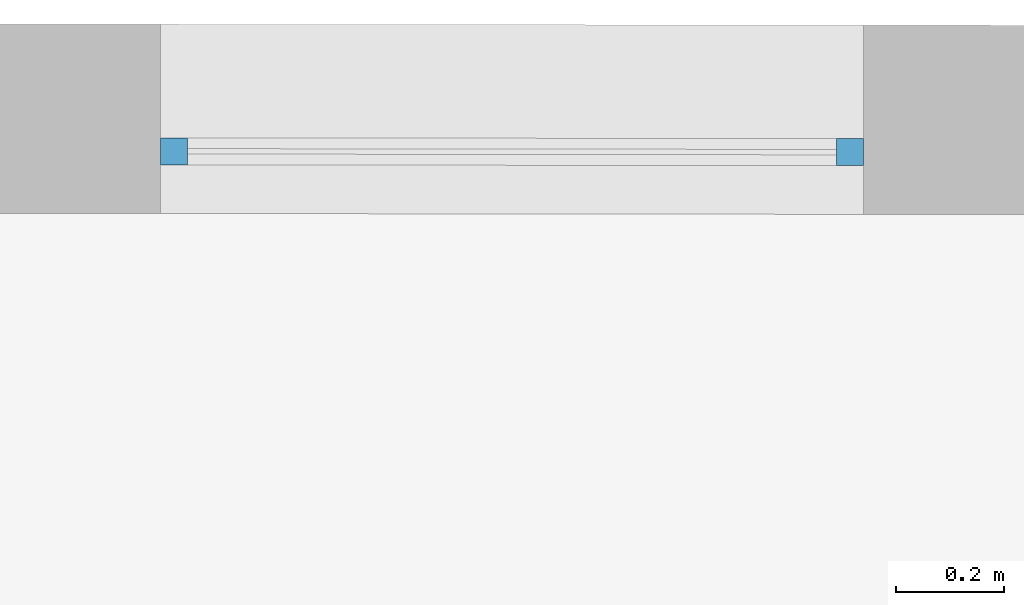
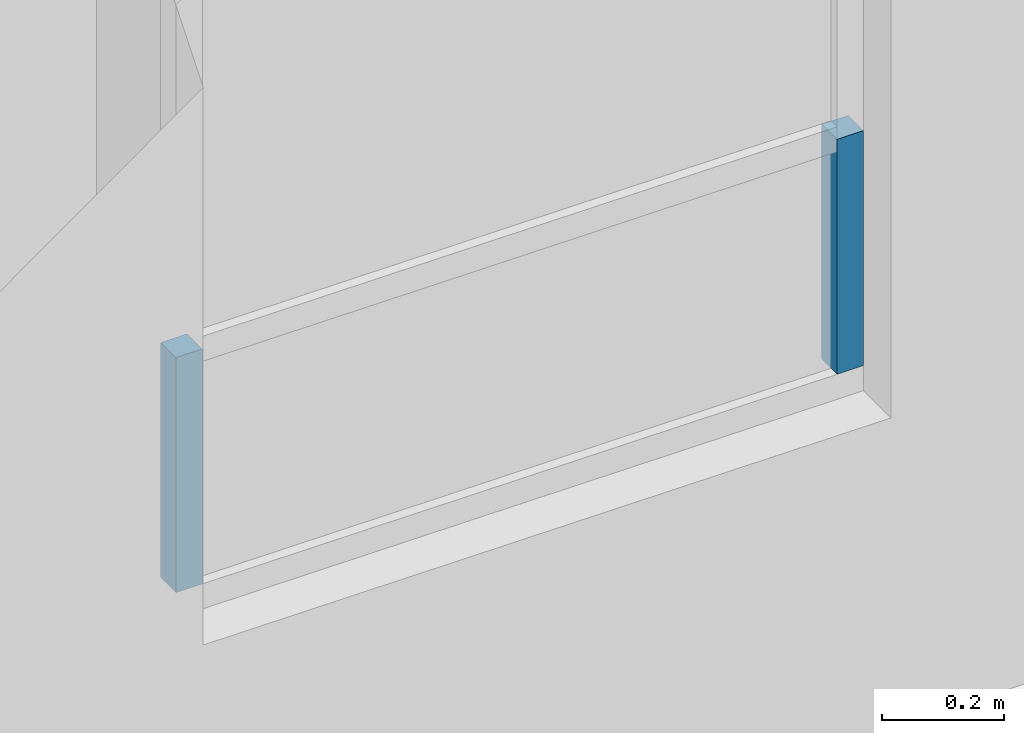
# One storey, part 24 of 35: 2 members, 1 element without a shape of its own.
"""IFC2X3 building model written with IfcOpenShell, lengths in metres."""

import ifcopenshell
import ifcopenshell.guid

model = None  # the IFC model being written
_history = None  # IfcOwnerHistory: only IFC2X3 demands one
_inside = {}  # id of a spatial element -> (the spatial element, [elements in it])
_under = {}  # id of a project, library or spatial element -> (it, [spatial elements below it])
_declared = {}  # id of a project -> (the project, [libraries it declares])
_typed = {}  # id of a type object -> (the type object, [elements of that type])
_made_of = {}  # id of a material, layer set ... -> (it, [elements and type objects made of it])


def new_model(schema):
    """Start an empty IFC model of exactly this schema.

    Asked for "IFC4X3", IfcOpenShell would pick the latest addendum, in which some entities
    have other attributes; the version numbers below select the first issue.
    IFC2X3 requires an IfcOwnerHistory on every rooted entity: one is made here for all.
    """
    global model, _history
    if schema == "IFC4X3":
        model = ifcopenshell.file(schema_version=(4, 3, 0, 0))
    else:
        model = ifcopenshell.file(schema=schema)
    _inside.clear()
    _under.clear()
    _declared.clear()
    _typed.clear()
    _made_of.clear()
    _history = None
    if model.schema == "IFC2X3":
        org = make("IfcOrganization", Name="unknown")
        user = make(
            "IfcPersonAndOrganization",
            ThePerson=make("IfcPerson", FamilyName="unknown"),
            TheOrganization=org,
        )
        app = make(
            "IfcApplication",
            ApplicationDeveloper=org,
            Version="unknown",
            ApplicationFullName="unknown",
            ApplicationIdentifier="unknown",
        )
        _history = make(
            "IfcOwnerHistory",
            OwningUser=user,
            OwningApplication=app,
            ChangeAction="ADDED",
            CreationDate=0,
        )
    return model


def make(cls, **values):
    """One entity of the class cls with the attributes given. An attribute that is None is left unset."""
    return model.create_entity(
        cls, **{name: value for name, value in values.items() if value is not None}
    )


def entity(cls, *values):
    """Any entity or typed value of the class cls, its attributes in the order of the schema. None: left unset."""
    e = model.create_entity(cls)
    for i, value in enumerate(values):
        if value is not None:
            e[i] = value
    return e


def rooted(cls, **values):
    """An entity with a GlobalId (a new one), such as an element, a storey or a relation."""
    return make(cls, GlobalId=ifcopenshell.guid.new(), OwnerHistory=_history, **values)


def si_unit(unit_type, name, prefix=None):
    """IfcSIUnit, for example si_unit("LENGTHUNIT", "METRE", prefix="MILLI")."""
    return make("IfcSIUnit", UnitType=unit_type, Prefix=prefix, Name=name)


def converted_unit(unit_type, name, factor, base, dimensions=None, offset=None):
    """IfcConversionBasedUnit, such as the inch: factor (a typed value) times the base unit."""
    return make(
        "IfcConversionBasedUnit"
        if offset is None
        else "IfcConversionBasedUnitWithOffset",
        ConversionOffset=offset,
        Dimensions=None
        if dimensions is None
        else entity("IfcDimensionalExponents", *dimensions),
        UnitType=unit_type,
        Name=name,
        ConversionFactor=make(
            "IfcMeasureWithUnit", ValueComponent=factor, UnitComponent=base
        ),
    )


def derived_unit(unit_type, elements):
    """IfcDerivedUnit: a product of units, each with its exponent."""
    return make(
        "IfcDerivedUnit",
        Elements=[
            make("IfcDerivedUnitElement", Unit=unit, Exponent=power)
            for unit, power in elements
        ],
        UnitType=unit_type,
    )


def assignment(units):
    """IfcUnitAssignment: the units of a project."""
    return None if units is None else make("IfcUnitAssignment", Units=units)


def point(xyz):
    """IfcCartesianPoint."""
    return None if xyz is None else make("IfcCartesianPoint", Coordinates=xyz)


def direction(xyz):
    """IfcDirection."""
    return None if xyz is None else make("IfcDirection", DirectionRatios=xyz)


def frame(location, z_axis=None, x_axis=None):
    """IfcAxis2Placement3D, a coordinate frame: its origin and axes. An axis left out is left unset."""
    return make(
        "IfcAxis2Placement3D",
        Location=point(location),
        Axis=direction(z_axis),
        RefDirection=direction(x_axis),
    )


def frame_2d(location, x_axis=None):
    """IfcAxis2Placement2D, a coordinate frame in the plane: its origin and x axis."""
    return make(
        "IfcAxis2Placement2D", Location=point(location), RefDirection=direction(x_axis)
    )


def origin():
    """The frame at (0, 0, 0) with its axes left unset."""
    return frame((0.0, 0.0, 0.0))


def origin_2d_with_axis():
    """The frame at (0, 0) in the plane with the x axis (1, 0) written out."""
    return frame_2d((0.0, 0.0), x_axis=(1.0, 0.0))


def place(relative_to, where):
    """IfcLocalPlacement: puts the frame where relative to a parent placement (None: the world)."""
    return make(
        "IfcLocalPlacement", PlacementRelTo=relative_to, RelativePlacement=where
    )


def context(
    kind, dimensions, precision=None, world=None, true_north=None, identifier=None
):
    """IfcGeometricRepresentationContext, for example the 3D "Model" context."""
    return make(
        "IfcGeometricRepresentationContext",
        ContextIdentifier=identifier,
        ContextType=kind,
        CoordinateSpaceDimension=dimensions,
        Precision=precision,
        WorldCoordinateSystem=world,
        TrueNorth=true_north,
    )


def subcontext(parent, identifier, kind, view, scale=None):
    """IfcGeometricRepresentationSubContext, for example "Body" below "Model"."""
    return make(
        "IfcGeometricRepresentationSubContext",
        ContextIdentifier=identifier,
        ContextType=kind,
        ParentContext=parent,
        TargetScale=scale,
        TargetView=view,
    )


def project(units=None, contexts=None):
    """IfcProject with its units and contexts."""
    return rooted(
        "IfcProject",
        Name="project",
        RepresentationContexts=contexts,
        UnitsInContext=assignment(units),
    )


def spatial(cls, under=None, at=None, **own):
    """A site, building, storey or space (cls), placed at a placement, below another one or the project."""
    s = rooted(cls, ObjectPlacement=at, **own)
    if under is not None:
        _under.setdefault(under.id(), (under, []))[1].append(s)
    return s


def profile(cls, at=None, kind="AREA", **sizes):
    """A parametric profile (cls). Its sizes go by their IFC names, for example OverallWidth=200.0."""
    return make(cls, ProfileType=kind, Position=at, **sizes)


def rectangle(**sizes):
    """IfcRectangleProfileDef."""
    return profile("IfcRectangleProfileDef", **sizes)


def extrude(swept, where, along, depth):
    """IfcExtrudedAreaSolid: the profile swept, set in the frame where, extruded along a direction by depth."""
    return make(
        "IfcExtrudedAreaSolid",
        SweptArea=swept,
        Position=where,
        ExtrudedDirection=direction(along),
        Depth=depth,
    )


def shape(context_of_items, identifier, shape_type, items):
    """IfcShapeRepresentation: the items that make up one representation, for example the "Body"."""
    return make(
        "IfcShapeRepresentation",
        ContextOfItems=context_of_items,
        RepresentationIdentifier=identifier,
        RepresentationType=shape_type,
        Items=items,
    )


def source(mapping_origin, context_of_items, identifier, shape_type, items):
    """IfcRepresentationMap: a shape defined once, which mapped items show again and again."""
    return make(
        "IfcRepresentationMap",
        MappingOrigin=mapping_origin,
        MappedRepresentation=shape(context_of_items, identifier, shape_type, items),
    )


def transform(
    local_origin,
    x_axis=None,
    y_axis=None,
    z_axis=None,
    scale=None,
    scale2=None,
    scale3=None,
    uniform=True,
):
    """IfcCartesianTransformationOperator3D, or its non-uniform kind. x_axis, y_axis, z_axis: its Axis1, 2, 3."""
    if uniform:
        return make(
            "IfcCartesianTransformationOperator3D",
            Axis1=direction(x_axis),
            Axis2=direction(y_axis),
            LocalOrigin=point(local_origin),
            Scale=scale,
            Axis3=direction(z_axis),
        )
    return make(
        "IfcCartesianTransformationOperator3DnonUniform",
        Axis1=direction(x_axis),
        Axis2=direction(y_axis),
        LocalOrigin=point(local_origin),
        Scale=scale,
        Axis3=direction(z_axis),
        Scale2=scale2,
        Scale3=scale3,
    )


def mapped(mapping_source, mapping_target):
    """IfcMappedItem: shows the shape of a source again, moved by a transform."""
    return make(
        "IfcMappedItem", MappingSource=mapping_source, MappingTarget=mapping_target
    )


def material(Name=None, Category=None):
    """IfcMaterial."""
    return make("IfcMaterial", Name=Name, Category=Category)


def made_of(thing, what):
    """Note that an element or type object is made of a material, layer set ...; save() writes the relation."""
    if what is not None:
        _made_of.setdefault(what.id(), (what, []))[1].append(thing)
    return thing


def type_object(cls, material=None, **own):
    """A type object (cls), such as IfcWallType, which elements share."""
    return made_of(rooted(cls, **own), material)


def type_shapes(of_type, sources):
    """Give a type object the sources (RepresentationMaps) that its elements show as mapped items."""
    of_type.RepresentationMaps = sources


def element(
    cls,
    number,
    at=None,
    inside=None,
    cuts=None,
    type_object=None,
    material=None,
    context=None,
    identifier="Body",
    shape_type=None,
    held_by="IfcProductDefinitionShape",
    body=None,
    shapes=None,
    **own,
):
    """One element of the class cls, such as IfcWall. Its Tag is "e" and its number.

    at: its placement. inside: the storey or other place that contains it. cuts: it is an
    opening in that element (IfcRelVoidsElement). A single representation is given by context,
    identifier, shape_type and body (its items); several are given by shapes. held_by: the class
    of the entity that holds the representations. save() writes the other relations.
    """
    e = rooted(cls, Tag="e%d" % number, ObjectPlacement=at, **own)
    if body is not None:
        shapes = [shape(context, identifier, shape_type, body)]
    if shapes is not None:
        e.Representation = make(held_by, Representations=shapes)
    if inside is not None:
        _inside.setdefault(inside.id(), (inside, []))[1].append(e)
    if cuts is not None:
        rooted(
            "IfcRelVoidsElement", RelatingBuildingElement=cuts, RelatedOpeningElement=e
        )
    if type_object is not None:
        _typed.setdefault(type_object.id(), (type_object, []))[1].append(e)
    return made_of(e, material)


def aggregate(whole, parts):
    """IfcRelAggregates: a whole, such as a stair, and the parts it consists of."""
    return rooted("IfcRelAggregates", RelatingObject=whole, RelatedObjects=parts)


def save(model, path):
    """Write the relations noted so far, then the file.

    IfcRelAggregates (storeys below a building ...), IfcRelContainedInSpatialStructure (elements
    in a storey), IfcRelDefinesByType, IfcRelAssociatesMaterial and IfcRelDeclares: one each for
    every whole, place, type object, material and project.
    """
    for whole, parts in _under.values():
        aggregate(whole, parts)
    for where, things in _inside.values():
        rooted(
            "IfcRelContainedInSpatialStructure",
            RelatedElements=things,
            RelatingStructure=where,
        )
    for kind, things in _typed.values():
        rooted("IfcRelDefinesByType", RelatedObjects=things, RelatingType=kind)
    for what, things in _made_of.values():
        rooted("IfcRelAssociatesMaterial", RelatedObjects=things, RelatingMaterial=what)
    for by, libraries in _declared.values():
        rooted("IfcRelDeclares", RelatingContext=by, RelatedDefinitions=libraries)
    model.write(path)


model = new_model("IFC2X3")

# Units and contexts
model_context = context("Model", 3, precision=1e-05, world=origin(), true_north=direction((6.123233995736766e-17, 1.0)))
body_context = subcontext(model_context, "Body", "Model", "MODEL_VIEW")
ifc_project = project(units=[si_unit("LENGTHUNIT", "METRE"), si_unit("AREAUNIT", "SQUARE_METRE"), converted_unit("PLANEANGLEUNIT", "DEGREE", entity("IfcPlaneAngleMeasure", 0.017453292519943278), si_unit("PLANEANGLEUNIT", "RADIAN"), dimensions=[0, 0, 0, 0, 0, 0, 0]), derived_unit("THERMALTRANSMITTANCEUNIT", [(si_unit("MASSUNIT", "GRAM", prefix="KILO"), 1), (si_unit("THERMODYNAMICTEMPERATUREUNIT", "KELVIN"), -1), (si_unit("TIMEUNIT", "SECOND"), -3)])], contexts=[model_context])

# Site, building, storey
site_placement = place(None, frame((1253.6752467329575, 2072.143113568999, 91.49999999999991), z_axis=(0.0, 0.0, 1.0), x_axis=(0.7237211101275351, 0.6900925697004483, 0.0)))
site = spatial("IfcSite", under=ifc_project, at=site_placement, Name="Surface", CompositionType="ELEMENT")
building_placement = place(site_placement, origin())
building = spatial("IfcBuilding", under=site, at=building_placement, CompositionType="ELEMENT")
storey_placement = place(building_placement, frame((0.0, 0.0, 3.549999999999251)))
storey = spatial("IfcBuildingStorey", under=building, at=storey_placement, Name="1-R+1", CompositionType="ELEMENT", Elevation=3.549999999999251)

# Curtain wall, members
curtain_wall_type = type_object("IfcCurtainWallType", Name="Mur-rideau:Menuiserie Ext 1F+1OB VERTIC", PredefinedType="NOTDEFINED")
curtain_wall_placement = place(storey_placement, frame((0.0, 0.0, -3.549999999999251)))
curtain_wall = element("IfcCurtainWall", 1, at=curtain_wall_placement, inside=storey, type_object=curtain_wall_type, Name="Mur-rideau:Menuiserie Ext 1F+1OB VERTIC", ObjectType="Mur-rideau:Menuiserie Ext 1F+1OB VERTIC")
ifc_material = material(Name="OMD_Aluminium Men Ext")
member_type_1 = type_object("IfcMemberType", Name="Meneau rectangulaire:50x50", PredefinedType="MULLION", material=ifc_material)
shared_shape_1 = source(origin(), body_context, "Body", "SweptSolid", [
    extrude(rectangle(XDim=0.05, YDim=0.049999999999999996, at=origin_2d_with_axis()), frame((-0.025, 0.0, -0.4699999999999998), z_axis=(0.0, 0.0, 1.0), x_axis=(-1.0, 0.0, 0.0)), (0.0, 0.0, 1.0), 0.4699999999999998),
])
type_shapes(member_type_1, [shared_shape_1])
member_1_placement = place(curtain_wall_placement, frame((170.62095614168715, 23.195735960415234, 4.219999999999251), z_axis=(0.0, 0.0, -1.0), x_axis=(-0.7228702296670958, 0.6909838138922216, 0.0)))
member_1 = element("IfcMember", 2, at=member_1_placement, type_object=member_type_1, material=ifc_material, Name="Meneau rectangulaire:50x50", ObjectType="Meneau rectangulaire:50x50", context=body_context, shape_type="MappedRepresentation", body=[
    mapped(shared_shape_1, transform((0.0, 0.0, 0.0), scale=1.0)),
])
member_type_2 = type_object("IfcMemberType", Name="Meneau rectangulaire:50x50", PredefinedType="MULLION", material=ifc_material)
shared_shape_2 = source(origin(), body_context, "Body", "SweptSolid", [
    extrude(rectangle(XDim=0.05, YDim=0.05000000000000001, at=origin_2d_with_axis()), frame((-0.025, 0.0, -0.4699999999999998), z_axis=(0.0, 0.0, 1.0), x_axis=(-1.0, 0.0, 0.0)), (0.0, 0.0, 1.0), 0.4699999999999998),
])
type_shapes(member_type_2, [shared_shape_2])
member_2_placement = place(curtain_wall_placement, frame((171.56046761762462, 22.297667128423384, 4.689999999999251), z_axis=(0.0, 0.0, 1.0), x_axis=(0.7228702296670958, -0.6909838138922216, 0.0)))
member_2 = element("IfcMember", 3, at=member_2_placement, type_object=member_type_2, material=ifc_material, Name="Meneau rectangulaire:50x50", ObjectType="Meneau rectangulaire:50x50", context=body_context, shape_type="MappedRepresentation", body=[
    mapped(shared_shape_2, transform((0.0, 0.0, 0.0), scale=1.0)),
])
aggregate(curtain_wall, [member_1, member_2])

save(model, "model.ifc")
